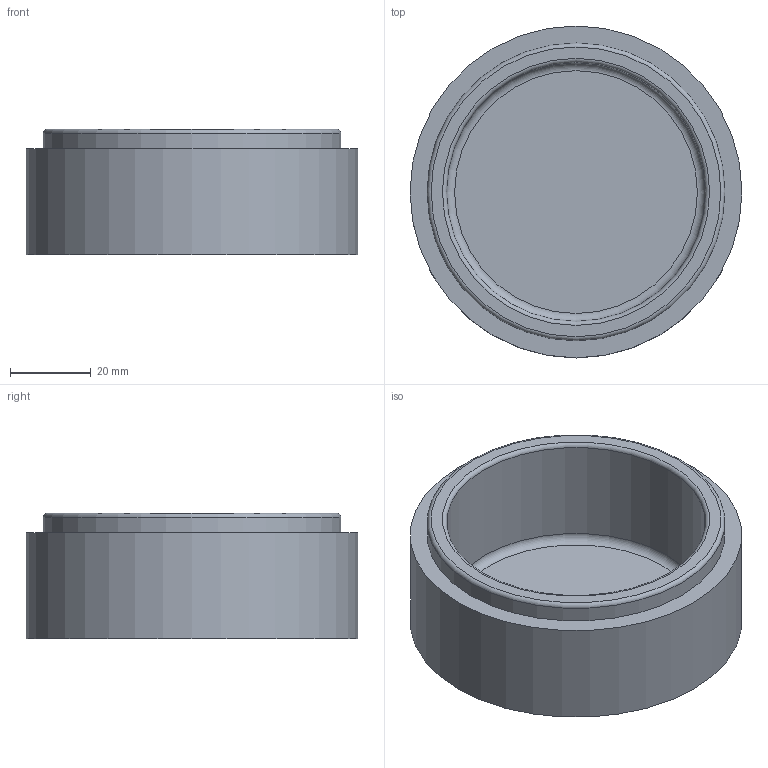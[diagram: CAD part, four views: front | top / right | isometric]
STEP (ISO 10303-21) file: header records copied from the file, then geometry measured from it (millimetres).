
FILE_DESCRIPTION(/* description */ ('STEP AP242','CAx-IF Rec.Pracs.---Representation and Presentation of Product Manufacturing Information (PMI)---4.0---2014-10-13','CAx-IF Rec.Pracs.---3D Tessellated Geometry---0.4---2014-09-14','2;1'),/* implementation_level */ '2;1');
FILE_NAME(/* name */ '646319a43f32556eaa4a58f3',/* time_stamp */ '2023-05-16T05:50:28Z',/* author */ (''),/* organization */ (''),/* preprocessor_version */ 'ST-DEVELOPER v19.4',/* originating_system */ ' ',/* authorisation */ ' ');
FILE_SCHEMA (('AP242_MANAGED_MODEL_BASED_3D_ENGINEERING_MIM_LF { 1 0 10303 442 1 1 4 }'));
Length unit declared in the file: metre
Products named in the file (1): Stand Lug
Bounding box: 82 x 82 x 31 mm (x, y, z)
Volume: 65568.8 mm3; surface area: 23892.2 mm2
Topology: 1 solids, 1 shells, 10 faces, 17 edges, 11 vertices
Faces by surface type: plane 4, torus 3, cylinder 3
Full cylindrical faces by diameter (mm): 64 x1, 73.6 x1, 82 x1
Entity records: 216 total; most frequent: DIRECTION 40, CARTESIAN_POINT 29, AXIS2_PLACEMENT_3D 20, ORIENTED_EDGE 18, EDGE_LOOP 18, FACE_BOUND 18, ADVANCED_FACE 10, EDGE_CURVE 9
